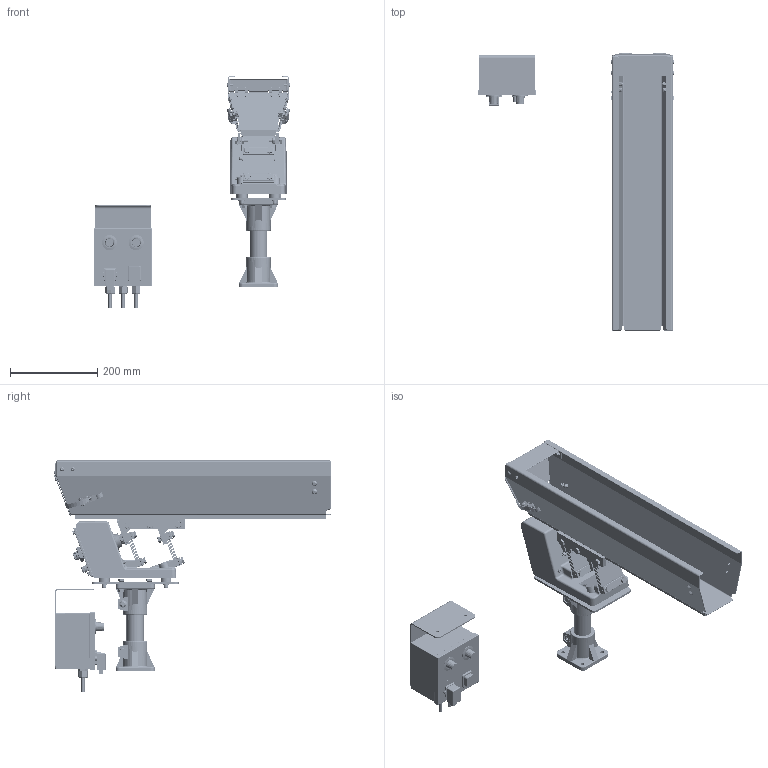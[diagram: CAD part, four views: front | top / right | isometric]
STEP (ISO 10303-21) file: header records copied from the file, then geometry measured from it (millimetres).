
FILE_DESCRIPTION (( 'STEP AP214' ), '1' );
FILE_NAME ('GM000266..step', '2026-10-16T10:31:44', ( '' ), ( '' ), 'SwSTEP 2.0', 'SolidWorks 2025', '' );
FILE_SCHEMA (( 'AUTOMOTIVE_DESIGN' ));
Length unit declared in the file: millimetre
Products named in the file (41): CM000071; CM000306; CM000934; CM000559; CM000305_001; CM000055; CM000023; CM000031; CM000079; PD000067; CM000921; PD001091; CE000026; CM000027; CM000305_003; PD001014; PD001092; CM000064; CM000924; SM000080; CM000306_003; PD001012_002; PD001012_001; CM000274; CM000045; CM000925; CM000922; CM000029; CM000306_001; CM000305; PD001016; CM000305_002; GM000266.; CM000306_002; CM000561; PD001012; CM000979; PD001013; CM000432
Assembly tree (102 placements, depth 3):
  CM000921
  CM000924
  CM000925
  CM000922
  GM000266.
    CM000045  x8
    CM000027  x4
    CM000023  x4
    CM000561  x10
    CM000029  x8
    CM000079  x4
    CM000559  x8
    CM000071  x4
    CM000274  x4
    CM000979  x6
    CM000064  x4
    CM000031  x4
    PD001012
      PD001012_001
      PD001012_002
    CM000306
      CM000306_001
      CM000306_002
      CM000306_003
    CM000306
      CM000306_001
      CM000306_002
      CM000306_003
    PD001016
    PD001014
    PD001013
    CM000055
    PD000067
    CE000026
    CM000305
      CM000305_001
      CM000305_003
      CM000305_002
    CM000305
      CM000305_001
      CM000305_003
      CM000305_002
    PD001092
    PD001091
    CM000432  x2
    SM000080
    CM000934  x4
Bounding box: 450.72 x 636.5 x 530.86 mm (x, y, z)
Volume: 3269558 mm3; surface area: 1368809.4 mm2
Topology: 96 solids, 97 shells, 9485 faces, 25578 edges, 16429 vertices
Faces by surface type: cylinder 6455, plane 1795, cone 788, torus 237, sphere 158, bspline 52
Entity records: 151323 total; most frequent: CARTESIAN_POINT 64304, ORIENTED_EDGE 20084, DIRECTION 13138, EDGE_CURVE 10044, VERTEX_POINT 6322, B_SPLINE_CURVE_WITH_KNOTS 6035, AXIS2_PLACEMENT_3D 5274, EDGE_LOOP 4312
